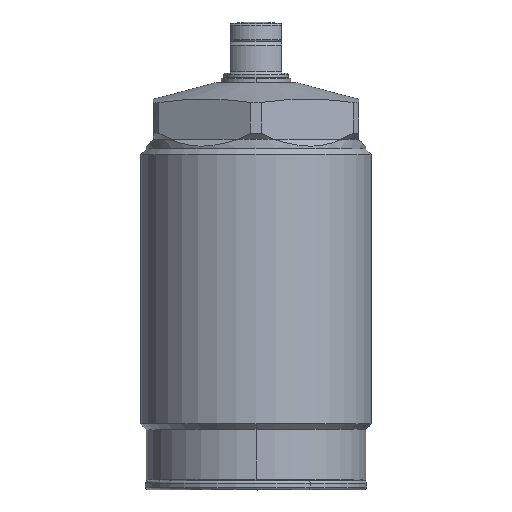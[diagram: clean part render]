
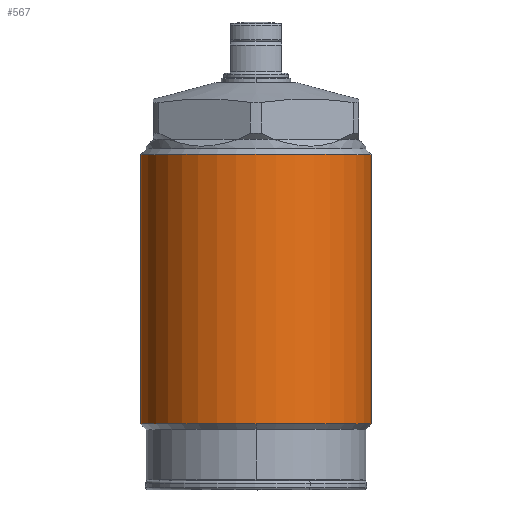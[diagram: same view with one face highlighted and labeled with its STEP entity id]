
A CAD part, top view. The second image highlights one B-rep face of the part: STEP entity #567.
In plain terms, the highlighted cylindrical face has radius 18 mm (diameter 36 mm), a full revolution.
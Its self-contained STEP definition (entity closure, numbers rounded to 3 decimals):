
#266=FACE_BOUND('',#864,.T.);
#267=FACE_BOUND('',#865,.T.);
#313=CYLINDRICAL_SURFACE('',#2368,18.);
#378=LINE('',#3811,#456);
#379=LINE('',#3816,#457);
#456=VECTOR('',#2955,1.);
#457=VECTOR('',#2958,1.);
#567=ADVANCED_FACE('',(#266,#267),#313,.T.);
#864=EDGE_LOOP('',(#1298));
#865=EDGE_LOOP('',(#1299,#1300,#1301,#1302,#1303,#1304));
#1298=ORIENTED_EDGE('',*,*,#1889,.T.);
#1299=ORIENTED_EDGE('',*,*,#1890,.T.);
#1300=ORIENTED_EDGE('',*,*,#1890,.F.);
#1301=ORIENTED_EDGE('',*,*,#1891,.T.);
#1302=ORIENTED_EDGE('',*,*,#1892,.T.);
#1303=ORIENTED_EDGE('',*,*,#1892,.F.);
#1304=ORIENTED_EDGE('',*,*,#1893,.T.);
#1639=VERTEX_POINT('',#3810);
#1640=VERTEX_POINT('',#3812);
#1641=VERTEX_POINT('',#3813);
#1642=VERTEX_POINT('',#3815);
#1643=VERTEX_POINT('',#3817);
#1889=EDGE_CURVE('',#1639,#1639,#2102,.T.);
#1890=EDGE_CURVE('',#1640,#1641,#378,.T.);
#1891=EDGE_CURVE('',#1640,#1642,#2103,.T.);
#1892=EDGE_CURVE('',#1642,#1643,#379,.T.);
#1893=EDGE_CURVE('',#1642,#1640,#2104,.T.);
#2102=CIRCLE('',#2365,18.);
#2103=CIRCLE('',#2366,18.);
#2104=CIRCLE('',#2367,18.);
#2365=AXIS2_PLACEMENT_3D('',#3809,#2953,#2954);
#2366=AXIS2_PLACEMENT_3D('',#3814,#2956,#2957);
#2367=AXIS2_PLACEMENT_3D('',#3818,#2959,#2960);
#2368=AXIS2_PLACEMENT_3D('',#3819,#2961,#2962);
#2953=DIRECTION('',(0.,-1.,0.));
#2954=DIRECTION('',(0.,0.,1.));
#2955=DIRECTION('',(0.,1.,0.));
#2956=DIRECTION('',(0.,1.,0.));
#2957=DIRECTION('',(0.,0.,1.));
#2958=DIRECTION('',(0.,1.,0.));
#2959=DIRECTION('',(0.,1.,0.));
#2960=DIRECTION('',(0.,0.,1.));
#2961=DIRECTION('',(0.,1.,0.));
#2962=DIRECTION('',(0.,0.,-1.));
#3809=CARTESIAN_POINT('',(0.,52.3,0.));
#3810=CARTESIAN_POINT('',(0.,52.3,18.));
#3811=CARTESIAN_POINT('',(0.,64.3,18.));
#3812=CARTESIAN_POINT('',(0.,10.3,18.));
#3813=CARTESIAN_POINT('',(0.,48.881,18.));
#3814=CARTESIAN_POINT('',(0.,10.3,0.));
#3815=CARTESIAN_POINT('',(0.,10.3,-18.));
#3816=CARTESIAN_POINT('',(0.,64.3,-18.));
#3817=CARTESIAN_POINT('',(0.,48.881,-18.));
#3818=CARTESIAN_POINT('',(0.,10.3,0.));
#3819=CARTESIAN_POINT('',(0.,64.3,0.));
